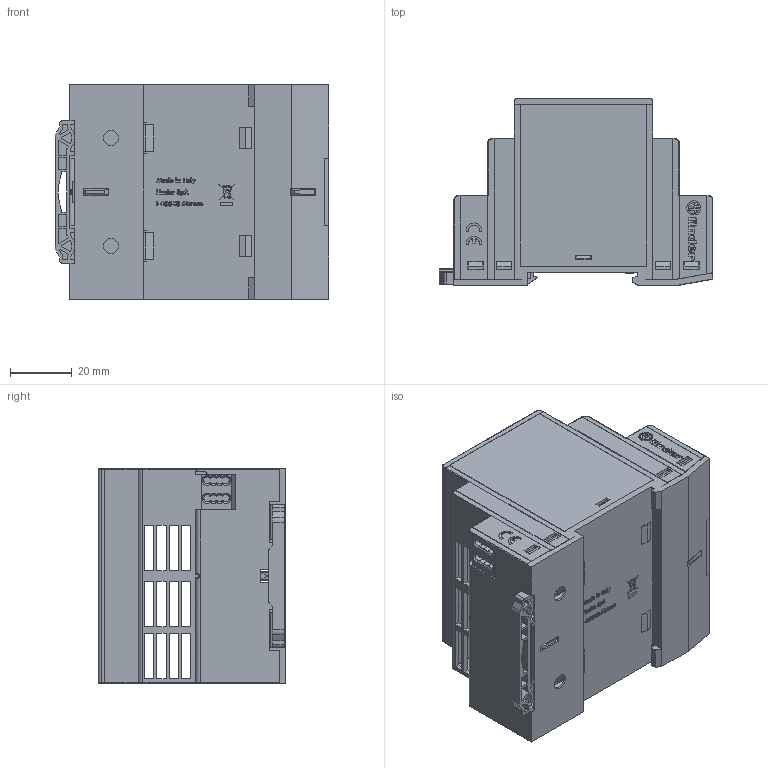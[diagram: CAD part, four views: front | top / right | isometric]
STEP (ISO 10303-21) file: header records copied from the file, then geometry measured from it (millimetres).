
FILE_DESCRIPTION(/* description */ ('Unknown'),/* implementation_level */ '2;1');
FILE_NAME(/* name */ '782K',/* time_stamp */ '2019-11-28T10:37:42+01:00',/* author */ ('Unknown'),/* organization */ ('Unknown'),/* preprocessor_version */ 'ST-DEVELOPER v16.7',/* originating_system */ 'DEX',/* authorisation */ $);
FILE_SCHEMA (('AUTOMOTIVE_DESIGN {1 0 10303 214 3 1 1}'));
Products named in the file (1): 782K sistemato da verificare
Bounding box: 88.85 x 60.8 x 70 mm (x, y, z)
Surface area: 40306.2 mm2 (no closed solid volume)
Topology: 0 solids, 67 shells, 1787 faces, 5845 edges, 4144 vertices
Faces by surface type: plane 1469, cylinder 194, bspline 78, cone 24, torus 22
Full cylindrical faces by diameter (mm): 0.252 x1, 0.374 x2, 3 x4, 4.566 x2, 4.6 x3, 5 x5
Entity records: 72089 total; most frequent: CARTESIAN_POINT 15961, ORIENTED_EDGE 9868, DIRECTION 9515, EDGE_CURVE 5808, LINE 4981, VECTOR 4981, VERTEX_POINT 4135, AXIS2_PLACEMENT_3D 2267
